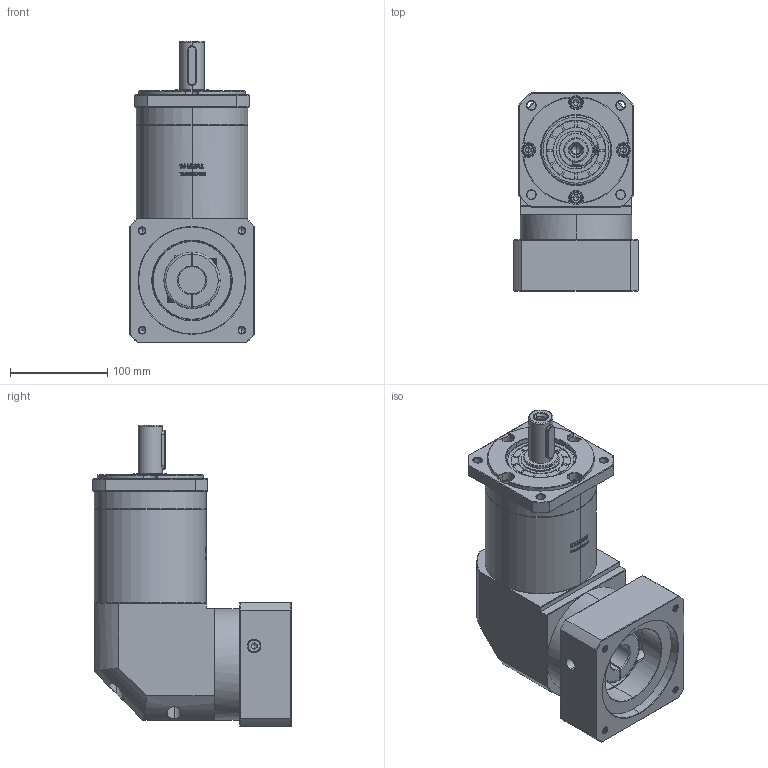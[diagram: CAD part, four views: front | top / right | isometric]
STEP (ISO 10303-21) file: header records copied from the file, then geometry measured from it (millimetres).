
FILE_DESCRIPTION (( 'STEP AP214' ), '1' );
FILE_NAME ('ZFR120A-D25-L3-28-110-145-M8.step', '2023-03-08T08:23:15', ( '' ), ( '' ), 'SwSTEP 2.0', 'SolidWorks 2016', '' );
FILE_SCHEMA (( 'AUTOMOTIVE_DESIGN' ));
Length unit declared in the file: millimetre
Products named in the file (1): ZFR120A-D25-L3-28-110-145-M8
Bounding box: 128 x 203.9 x 310 mm (x, y, z)
Volume: 3675398.3 mm3; surface area: 279200.2 mm2
Topology: 6 solids, 6 shells, 2872 faces, 7672 edges, 4942 vertices
Faces by surface type: plane 1485, bspline 607, cylinder 434, cone 338, torus 8
Entity records: 157843 total; most frequent: CARTESIAN_POINT 60490, ORIENTED_EDGE 15284, DIRECTION 11105, EDGE_CURVE 7642, VERTEX_POINT 4942, LINE 4753, VECTOR 4753, AXIS2_PLACEMENT_3D 3176
